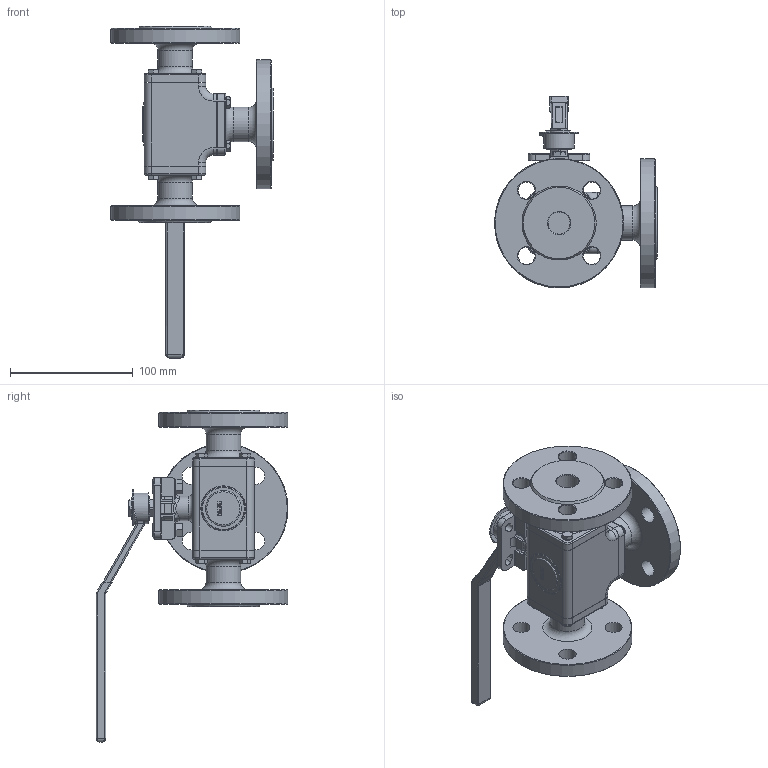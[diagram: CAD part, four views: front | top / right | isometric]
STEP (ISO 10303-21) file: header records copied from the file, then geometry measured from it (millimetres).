
FILE_DESCRIPTION(('STEP AP242'), '1');
FILE_NAME('BV3232P(4pc)-FP-3WT-F-ISO-H Êðàí øàðîâîé DN.ru Äó20 Ðó16', '', ('UNSPECIFIED'), ('UNSPECIFIED'), 'C3D Converter', 'C3D Toolkit', '');
FILE_SCHEMA(('AP242_MANAGED_MODEL_BASED_3D_ENGINEERING_MIM_LF { 1 0 10303 442 1 1 4 }'));
Length unit declared in the file: millimetre
Products named in the file (1): BV3232P(4pc)-FP-3WT-F-ISO-H
Bounding box: 132.5 x 156 x 270 mm (x, y, z)
Volume: 622886 mm3; surface area: 134965 mm2
Topology: 1 solids, 14 shells, 911 faces, 2229 edges, 1383 vertices
Faces by surface type: plane 463, cylinder 211, cone 136, bspline 59, torus 42
Full cylindrical faces by diameter (mm): 1.119 x2, 2 x1, 4.917 x2, 5 x24, 6 x14, 8 x12, 10 x2, 14 x12, 16 x1, 18 x3, 20 x2, 25 x1, 28 x3, 30 x3, 105 x3
Entity records: 44285 total; most frequent: CARTESIAN_POINT 19381, ORIENTED_EDGE 4200, DIRECTION 4088, EDGE_CURVE 2100, AXIS2_PLACEMENT_3D 1554, VERTEX_POINT 1383, EDGE_LOOP 1169, LINE 980
